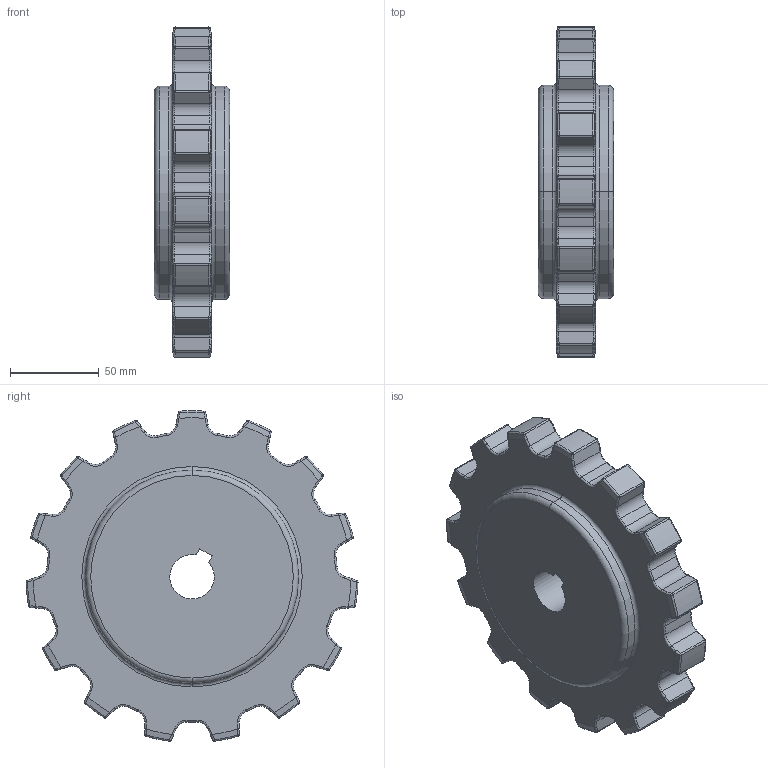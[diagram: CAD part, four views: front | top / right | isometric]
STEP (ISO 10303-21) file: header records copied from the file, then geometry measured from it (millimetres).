
FILE_DESCRIPTION((''),'2;1');
FILE_NAME('39Z15','2012-06-20T',('mth'),(''),'PRO/ENGINEER BY PARAMETRIC TECHNOLOGY CORPORATION, 2012130','PRO/ENGINEER BY PARAMETRIC TECHNOLOGY CORPORATION, 2012130','');
FILE_SCHEMA(('AUTOMOTIVE_DESIGN { 1 0 10303 214 1 1 1 1 }'));
Length unit declared in the file: millimetre
Products named in the file (1): 39Z15
Bounding box: 42.3 x 186.8 x 186 mm (x, y, z)
Volume: 738032.4 mm3; surface area: 72893.7 mm2
Topology: 1 solids, 1 shells, 470 faces, 1090 edges, 624 vertices
Faces by surface type: cylinder 155, torus 128, bspline 60, sphere 60, plane 37, cone 30
Entity records: 18407 total; most frequent: CARTESIAN_POINT 4385, DIRECTION 2266, ORIENTED_EDGE 2180, PRESENTATION_STYLE_ASSIGNMENT 1091, STYLED_ITEM 1091, CURVE_STYLE 1090, EDGE_CURVE 1090, AXIS2_PLACEMENT_3D 1006
